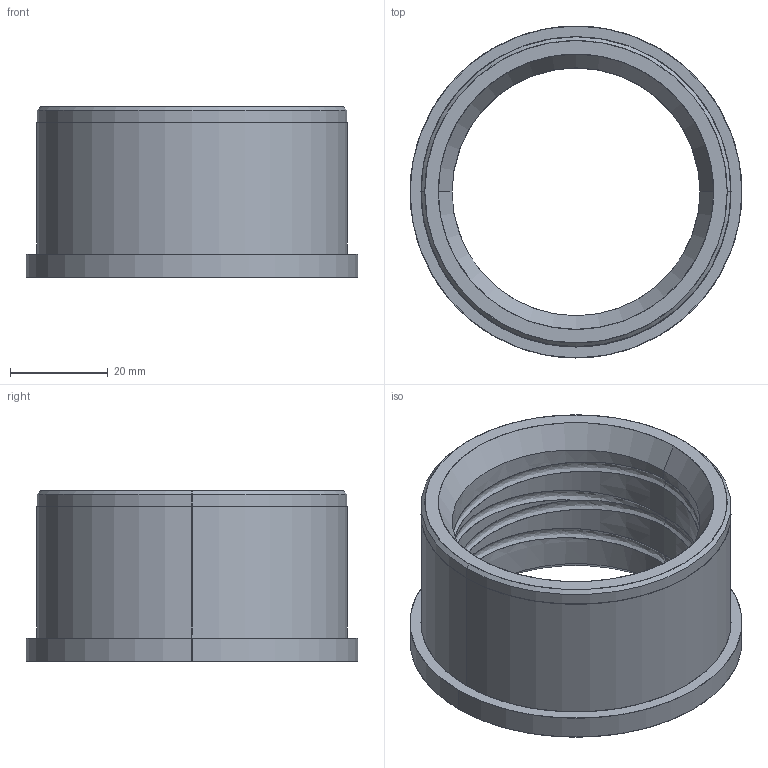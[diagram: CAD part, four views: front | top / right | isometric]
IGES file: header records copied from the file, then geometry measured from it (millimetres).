
Start section: SolidWorks IGES file using analytic representation for surfaces
Global section: file name: D:\Current\W2\SBF 16-13.igs; native system: SolidWorks 2017; preprocessor: SolidWorks 2017; author: Ravi Kalvai; date: 230530.115428; units: inch
Bounding box: 68 x 68 x 34.92 mm (x, y, z)
Surface area: 15463.7 mm2 (no closed solid volume)
Topology: 0 solids, 0 shells, 32 faces, 964 edges, 964 vertices
Faces by surface type: revolution 20, bspline 12
